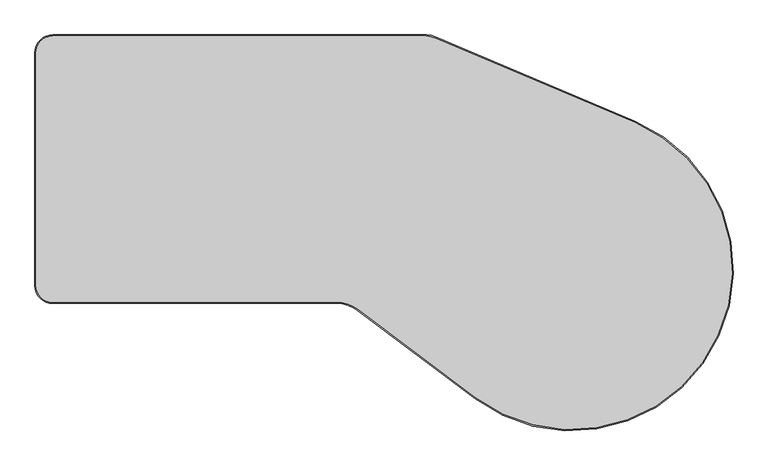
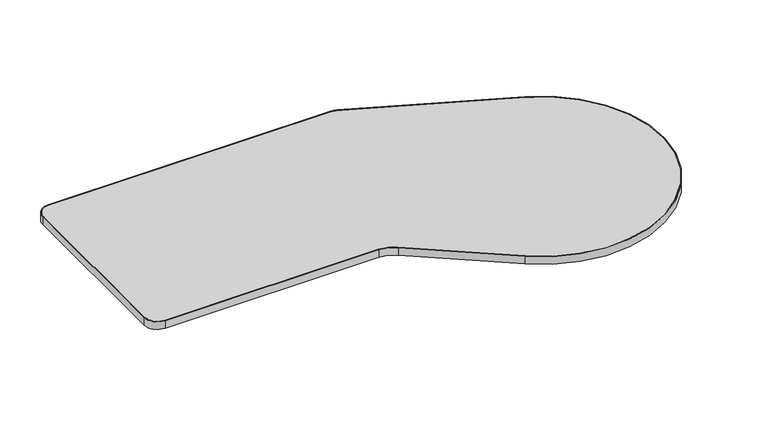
"""IFC4 building model written with IfcOpenShell, lengths in millimetres: furniture geometry, Steelcase - Answer Solution - Universal Table - Bubble Jetty - 3mm Edge : 30D x 78W - Right."""

from ifc_helpers import new_model, si_unit, point, frame, frame_2d, origin, place, context, project, spatial, polyline, circle_curve, trimmed, segment, composite_curve, outline, extrude, source, transform, mapped, element, save


def furniture_0a1c9569(model_context):
    return source(origin(), model_context, "Body", "SweptSolid", [
        extrude(outline(composite_curve([segment(trimmed(circle_curve(frame_2d((1111.5127585, -63.5)), 63.5), [point((1111.5127585, 0.0))], [point((1136.3243752, -5.0480225))], False, "CARTESIAN"), True, "CONTINUOUS"), segment(polyline([(1136.3243752, -5.0480225), (1702.6456579, -245.4393183)]), True, "CONTINUOUS"), segment(trimmed(circle_curve(frame_2d((1524.0017654, -666.2941502)), 457.2006452), [point((1702.6456579, -245.4393183))], [point((1249.6888367, -1032.06026))], False, "CARTESIAN"), True, "CONTINUOUS"), segment(polyline([(1249.6888367, -1032.06026), (916.6860196, -782.318757)]), True, "CONTINUOUS"), segment(trimmed(circle_curve(frame_2d((855.727677, -863.6)), 101.6), [point((916.6860196, -782.318757))], [point((855.727677, -762.0))], True, "CARTESIAN"), True, "CONTINUOUS"), segment(polyline([(855.727677, -762.0), (50.8, -762.0)]), True, "CONTINUOUS"), segment(trimmed(circle_curve(frame_2d((50.8, -711.2)), 50.8), [point((50.8, -762.0))], [point((0.0, -711.2))], False, "CARTESIAN"), True, "CONTINUOUS"), segment(polyline([(0.0, -711.2), (0.0, -50.8)]), True, "CONTINUOUS"), segment(trimmed(circle_curve(frame_2d((50.8, -50.8)), 50.8), [point((0.0, -50.8))], [point((50.8, 0.0))], False, "CARTESIAN"), True, "CONTINUOUS"), segment(polyline([(50.8, 0.0), (1111.5127585, 0.0)]), True, "CONTINUOUS")], self_intersect=False), holes=[composite_curve([segment(trimmed(circle_curve(frame_2d((855.7262558, -863.5943802)), 104.6430313), [point((855.7262558, -758.9513489))], [point((918.5099232, -779.8783417))], False, "CARTESIAN"), True, "CONTINUOUS"), segment(polyline([(918.5099232, -779.8783417), (1251.517708, -1029.6208089)]), True, "CONTINUOUS"), segment(trimmed(circle_curve(frame_2d((1523.9992122, -666.292685)), 454.1514018), [point((1251.517708, -1029.6208089))], [point((1701.4531219, -248.2453125))], True, "CARTESIAN"), True, "CONTINUOUS"), segment(polyline([(1701.4531219, -248.2453125), (1137.5125443, -8.8622498)]), True, "CONTINUOUS"), segment(trimmed(circle_curve(frame_2d((1108.9325722, -76.1911818)), 73.1436934), [point((1137.5125443, -8.8622498))], [point((1108.9325722, -3.0474883))], True, "CARTESIAN"), True, "CONTINUOUS"), segment(polyline([(1108.9325722, -3.0474883), (50.7998062, -3.0474883)]), True, "CONTINUOUS"), segment(trimmed(circle_curve(frame_2d((50.7998062, -50.7992248)), 47.7517365), [point((50.7998062, -3.0474883))], [point((3.0480698, -50.7992248))], True, "CARTESIAN"), True, "CONTINUOUS"), segment(polyline([(3.0480698, -50.7992248), (3.0480698, -711.1996124)]), True, "CONTINUOUS"), segment(trimmed(circle_curve(frame_2d((50.7998062, -711.1996124)), 47.7517365), [point((3.0480698, -711.1996124))], [point((50.7998062, -758.9513489))], True, "CARTESIAN"), True, "CONTINUOUS"), segment(polyline([(50.7998062, -758.9513489), (855.7262558, -758.9513489)]), True, "CONTINUOUS")], self_intersect=False)]), frame((0.0, 0.0, 668.274), z_axis=(0.0, 0.0, 1.0), x_axis=(1.0, 0.0, 0.0)), (0.0, 0.0, 1.0), 30.0990349),
        extrude(outline(composite_curve([segment(polyline([(855.7262558, -758.9513489), (50.7998062, -758.9513489)]), True, "CONTINUOUS"), segment(trimmed(circle_curve(frame_2d((50.7998062, -711.1996124)), 47.7517365), [point((50.7998062, -758.9513489))], [point((3.0480698, -711.1996124))], False, "CARTESIAN"), True, "CONTINUOUS"), segment(polyline([(3.0480698, -711.1996124), (3.0480698, -50.7992249)]), True, "CONTINUOUS"), segment(trimmed(circle_curve(frame_2d((50.7998062, -50.7992249)), 47.7517365), [point((3.0480698, -50.7992249))], [point((50.7998062, -3.0474884))], False, "CARTESIAN"), True, "CONTINUOUS"), segment(polyline([(50.7998062, -3.0474884), (1108.9325722, -3.0474883)]), True, "CONTINUOUS"), segment(trimmed(circle_curve(frame_2d((1108.9325722, -76.1911818)), 73.1436934), [point((1108.9325722, -3.0474883))], [point((1137.5125443, -8.8622498))], False, "CARTESIAN"), True, "CONTINUOUS"), segment(polyline([(1137.5125443, -8.8622498), (1701.4531219, -248.2453125)]), True, "CONTINUOUS"), segment(trimmed(circle_curve(frame_2d((1523.9992122, -666.292685)), 454.1514018), [point((1701.4531219, -248.2453125))], [point((1251.517708, -1029.620809))], False, "CARTESIAN"), True, "CONTINUOUS"), segment(polyline([(1251.517708, -1029.620809), (918.5099232, -779.8783417)]), True, "CONTINUOUS"), segment(trimmed(circle_curve(frame_2d((855.7262558, -863.5943802)), 104.6430313), [point((918.5099232, -779.8783417))], [point((855.7262558, -758.9513489))], True, "CARTESIAN"), True, "CONTINUOUS")], self_intersect=False)), frame((0.0, 0.0, 668.274), z_axis=(0.0, 0.0, 1.0), x_axis=(1.0, 0.0, 0.0)), (0.0, 0.0, 1.0), 30.0990349),
    ])


if __name__ == "__main__":
    model = new_model("IFC4")
    model_context = context("Model", 3, world=origin())
    ifc_project = project(units=[si_unit("LENGTHUNIT", "METRE", prefix="MILLI")], contexts=[model_context])
    site = spatial("IfcSite", under=ifc_project)
    building = spatial("IfcBuilding", under=site)
    placement = place(None, origin())
    furniture_shape = furniture_0a1c9569(model_context)
    element("IfcFurniture", 1, ObjectType="Steelcase - Answer Solution - Universal Table - Bubble Jetty - 3mm Edge : 30D x 78W - Right", at=placement, inside=building, context=model_context, shape_type="MappedRepresentation", body=[
        mapped(furniture_shape, transform((0.0, 0.0, 0.0), x_axis=(1.0, 0.0, 0.0), y_axis=(0.0, 1.0, 0.0), z_axis=(0.0, 0.0, 1.0))),
    ])
    save(model, "model.ifc")
